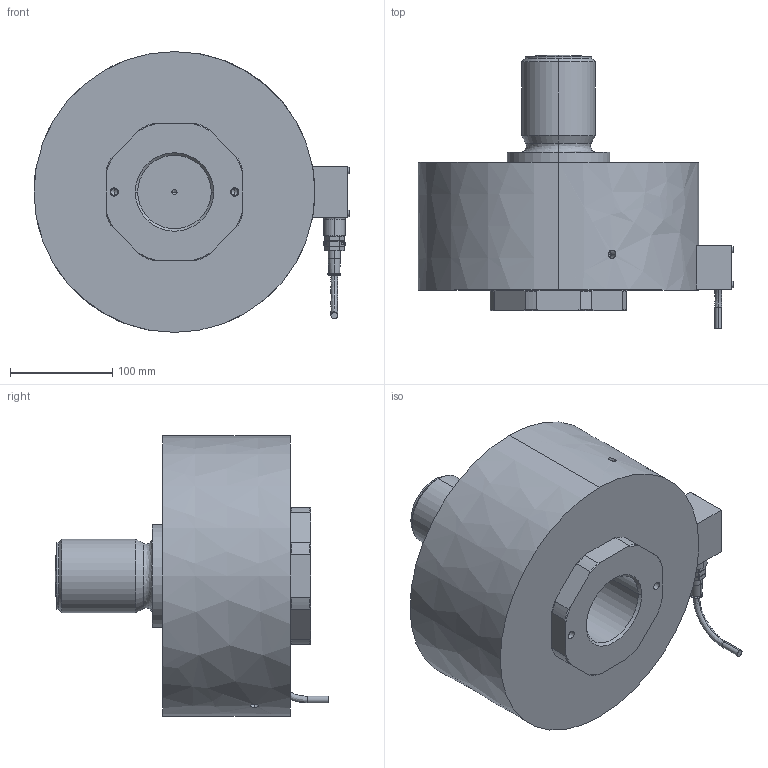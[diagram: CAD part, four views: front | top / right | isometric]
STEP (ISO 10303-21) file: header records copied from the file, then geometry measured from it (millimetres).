
FILE_DESCRIPTION((''),'2;1');
FILE_NAME('Z4A_500KN','2019-11-06T',('ESCHE'),(''),'CREO PARAMETRIC BY PTC INC, 2017170','CREO PARAMETRIC BY PTC INC, 2017170','');
FILE_SCHEMA(('AUTOMOTIVE_DESIGN { 1 0 10303 214 1 1 1 1 }'));
Length unit declared in the file: millimetre
Products named in the file (1): Z4A_500KN
Bounding box: 309.46 x 267.5 x 275.1 mm (x, y, z)
Volume: 7901168.4 mm3; surface area: 292567.2 mm2
Topology: 1 solids, 1 shells, 322 faces, 812 edges, 504 vertices
Faces by surface type: bspline 322
Entity records: 14619 total; most frequent: CARTESIAN_POINT 7646, ORIENTED_EDGE 1600, DIRECTION 1106, EDGE_CURVE 800, VERTEX_POINT 504, VECTOR 378, LINE 378, AXIS2_PLACEMENT_3D 364
